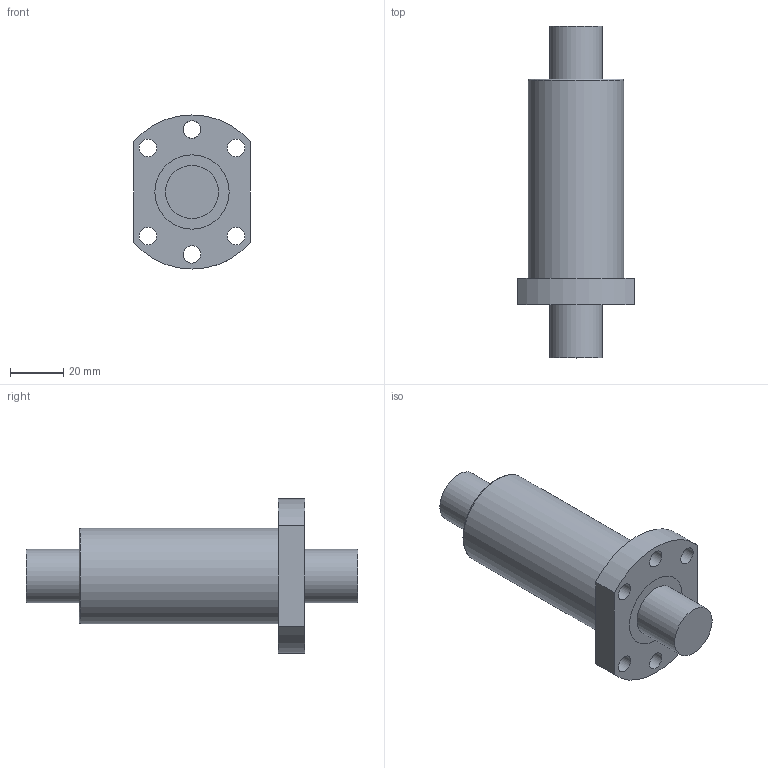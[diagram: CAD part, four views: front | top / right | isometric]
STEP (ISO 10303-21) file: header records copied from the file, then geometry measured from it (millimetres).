
FILE_DESCRIPTION(/* description */ (''),/* implementation_level */ '2;1');
FILE_NAME(/* name */ 'OFU02005-4.stp',/* time_stamp */ '2017-03-13T10:51:55+08:00',/* author */ (''),/* organization */ (''),/* preprocessor_version */ 'ST-DEVELOPER v11',/* originating_system */ 'SIEMENS UGS NX 6.0',/* authorisation */ '');
FILE_SCHEMA (('CONFIG_CONTROL_DESIGN'));
Length unit declared in the file: millimetre
Products named in the file (1): OFU02005-4
Bounding box: 44 x 125 x 58 mm (x, y, z)
Volume: 109368.9 mm3; surface area: 31792.7 mm2
Topology: 4 solids, 4 shells, 34 faces, 78 edges, 54 vertices
Faces by surface type: cylinder 19, plane 14, torus 1
Full cylindrical faces by diameter (mm): 4 x1, 5 x1, 6.6 x6, 20 x4, 28 x4, 36 x1
Entity records: 1035 total; most frequent: CARTESIAN_POINT 243, DIRECTION 154, ORIENTED_EDGE 100, EDGE_LOOP 74, AXIS2_PLACEMENT_3D 72, FACE_BOUND 68, EDGE_CURVE 50, VERTEX_POINT 44
